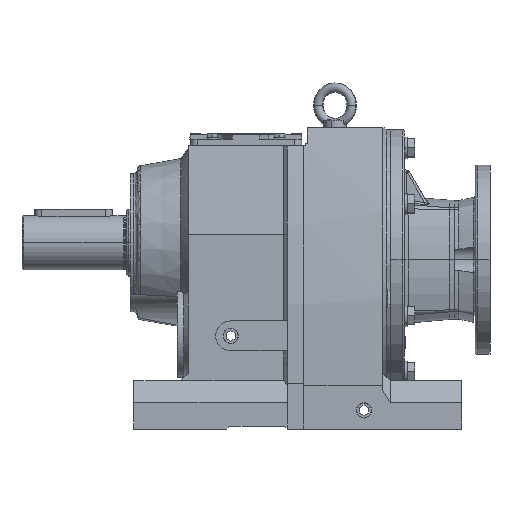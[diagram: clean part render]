
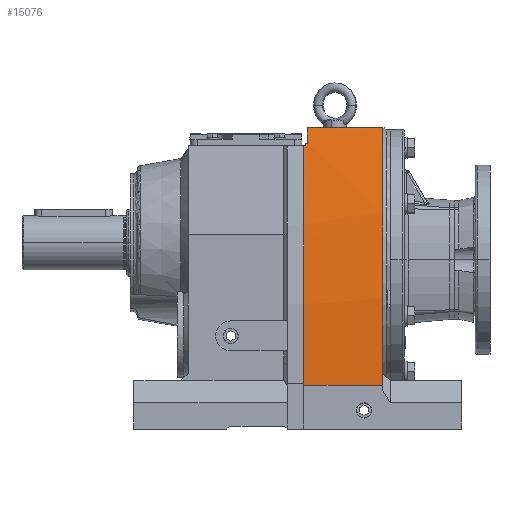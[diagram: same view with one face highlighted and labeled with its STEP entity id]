
A CAD part, front view. The second image highlights one B-rep face of the part: STEP entity #15076.
In plain terms, the highlighted cylindrical face has radius 1000 mm (diameter 2000 mm), a partial arc.
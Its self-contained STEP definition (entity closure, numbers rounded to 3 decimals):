
#9576 = DIRECTION ( 'NONE',  ( 0., 0., 1. ) ) ;
#9577 = DIRECTION ( 'NONE',  ( -1., 0., 0. ) ) ;
#9578 = CARTESIAN_POINT ( 'NONE',  ( 344., 799.313, -154.229 ) ) ;
#9588 = DIRECTION ( 'NONE',  ( 0., 0., 1. ) ) ;
#9589 = DIRECTION ( 'NONE',  ( -1., 0., 0. ) ) ;
#9590 = CARTESIAN_POINT ( 'NONE',  ( 243., 799.313, -154.229 ) ) ;
#9596 = DIRECTION ( 'NONE',  ( -1., 0., 0. ) ) ;
#9597 = CARTESIAN_POINT ( 'NONE',  ( 243., -158.549, 133. ) ) ;
#9603 = DIRECTION ( 'NONE',  ( 0., 1., 0. ) ) ;
#9605 = DIRECTION ( 'NONE',  ( -1., 0., 0. ) ) ;
#9606 = CARTESIAN_POINT ( 'NONE',  ( 240., 799.313, -154.229 ) ) ;
#9657 = DIRECTION ( 'NONE',  ( 1., 0., 0. ) ) ;
#9658 = CARTESIAN_POINT ( 'NONE',  ( 344., -159.444, 130. ) ) ;
#9686 = DIRECTION ( 'NONE',  ( 1., 0., 0. ) ) ;
#9687 = CARTESIAN_POINT ( 'NONE',  ( 238., -151.886, 154.35 ) ) ;
#11738 = ORIENTED_EDGE ( 'NONE', *, *, #29150, .T. ) ;
#11740 = ORIENTED_EDGE ( 'NONE', *, *, #29153, .F. ) ;
#11742 = ORIENTED_EDGE ( 'NONE', *, *, #29147, .F. ) ;
#11745 = ORIENTED_EDGE ( 'NONE', *, *, #29123, .F. ) ;
#11747 = ORIENTED_EDGE ( 'NONE', *, *, #29168, .T. ) ;
#11749 = ORIENTED_EDGE ( 'NONE', *, *, #29173, .F. ) ;
#11751 = ORIENTED_EDGE ( 'NONE', *, *, #29157, .T. ) ;
#11755 = ORIENTED_EDGE ( 'NONE', *, *, #29132, .F. ) ;
#15076 = ADVANCED_FACE ( 'NONE', ( #19539 ), #19540, .T. ) ;
#17692 = DIRECTION ( 'NONE',  ( 0., 0., 1. ) ) ;
#17694 = DIRECTION ( 'NONE',  ( -1., 0., 0. ) ) ;
#17695 = CARTESIAN_POINT ( 'NONE',  ( 344., 799.313, -154.229 ) ) ;
#19539 = FACE_OUTER_BOUND ( 'NONE', #30180, .T. ) ;
#19540 = CYLINDRICAL_SURFACE ( 'NONE', #36444, 1000. ) ;
#24193 = DIRECTION ( 'NONE',  ( 0., 0., 1. ) ) ;
#24198 = CARTESIAN_POINT ( 'NONE',  ( 238., 799.313, -154.229 ) ) ;
#24199 = DIRECTION ( 'NONE',  ( -1., 0., 0. ) ) ;
#25086 = CARTESIAN_POINT ( 'NONE',  ( 344., -200., -191.3 ) ) ;
#25094 = DIRECTION ( 'NONE',  ( 1., 0., 0. ) ) ;
#25502 = CARTESIAN_POINT ( 'NONE',  ( 344., -151.886, 154.35 ) ) ;
#25509 = CARTESIAN_POINT ( 'NONE',  ( 243., -151.886, 154.35 ) ) ;
#25516 = CARTESIAN_POINT ( 'NONE',  ( 238., -200., -191.3 ) ) ;
#25518 = CARTESIAN_POINT ( 'NONE',  ( 238., -159.444, 130. ) ) ;
#25525 = CARTESIAN_POINT ( 'NONE',  ( 243., -158.549, 133. ) ) ;
#25535 = CARTESIAN_POINT ( 'NONE',  ( 240., -158.549, 133. ) ) ;
#25538 = CARTESIAN_POINT ( 'NONE',  ( 240., -159.444, 130. ) ) ;
#25685 = CARTESIAN_POINT ( 'NONE',  ( 344., -200., -191.3 ) ) ;
#26943 = VECTOR ( 'NONE', #9686, 1000. ) ;
#26956 = VECTOR ( 'NONE', #9657, 1000. ) ;
#26979 = CIRCLE ( 'NONE', #26982, 1000. ) ;
#26982 = AXIS2_PLACEMENT_3D ( 'NONE', #9606, #9605, #9603 ) ;
#26986 = VECTOR ( 'NONE', #9596, 1000. ) ;
#26987 = CIRCLE ( 'NONE', #26991, 1000. ) ;
#26989 = CIRCLE ( 'NONE', #26997, 1000. ) ;
#26991 = AXIS2_PLACEMENT_3D ( 'NONE', #9590, #9589, #9588 ) ;
#26997 = AXIS2_PLACEMENT_3D ( 'NONE', #9578, #9577, #9576 ) ;
#27004 = CIRCLE ( 'NONE', #27016, 1000. ) ;
#27011 = VECTOR ( 'NONE', #25094, 1000. ) ;
#27016 = AXIS2_PLACEMENT_3D ( 'NONE', #24198, #24199, #24193 ) ;
#28524 = LINE ( 'NONE', #9687, #26943 ) ;
#28529 = LINE ( 'NONE', #9658, #26956 ) ;
#28533 = LINE ( 'NONE', #9597, #26986 ) ;
#28545 = LINE ( 'NONE', #25086, #27011 ) ;
#29123 = EDGE_CURVE ( 'NONE', #34191, #34190, #28524, .T. ) ;
#29132 = EDGE_CURVE ( 'NONE', #34181, #34198, #28529, .T. ) ;
#29147 = EDGE_CURVE ( 'NONE', #34198, #34196, #26979, .T. ) ;
#29150 = EDGE_CURVE ( 'NONE', #34194, #34196, #28533, .T. ) ;
#29153 = EDGE_CURVE ( 'NONE', #34194, #34191, #26987, .T. ) ;
#29157 = EDGE_CURVE ( 'NONE', #34183, #34190, #26989, .T. ) ;
#29168 = EDGE_CURVE ( 'NONE', #34180, #34183, #28545, .T. ) ;
#29173 = EDGE_CURVE ( 'NONE', #34180, #34181, #27004, .T. ) ;
#30180 = EDGE_LOOP ( 'NONE', ( #11755, #11749, #11747, #11751, #11745, #11740, #11738, #11742 ) ) ;
#34180 = VERTEX_POINT ( 'NONE', #25516 ) ;
#34181 = VERTEX_POINT ( 'NONE', #25518 ) ;
#34183 = VERTEX_POINT ( 'NONE', #25685 ) ;
#34190 = VERTEX_POINT ( 'NONE', #25502 ) ;
#34191 = VERTEX_POINT ( 'NONE', #25509 ) ;
#34194 = VERTEX_POINT ( 'NONE', #25525 ) ;
#34196 = VERTEX_POINT ( 'NONE', #25535 ) ;
#34198 = VERTEX_POINT ( 'NONE', #25538 ) ;
#36444 = AXIS2_PLACEMENT_3D ( 'NONE', #17695, #17694, #17692 ) ;
